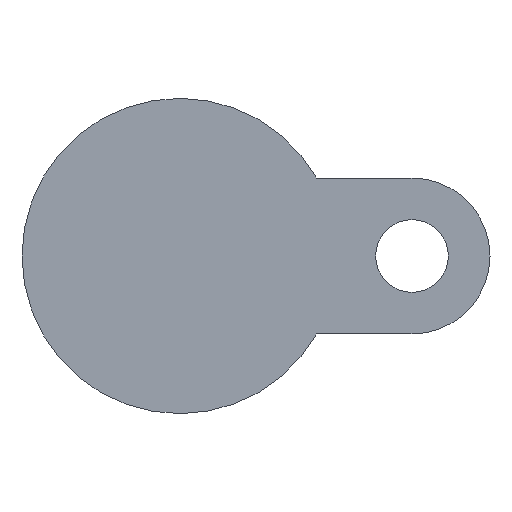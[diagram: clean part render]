
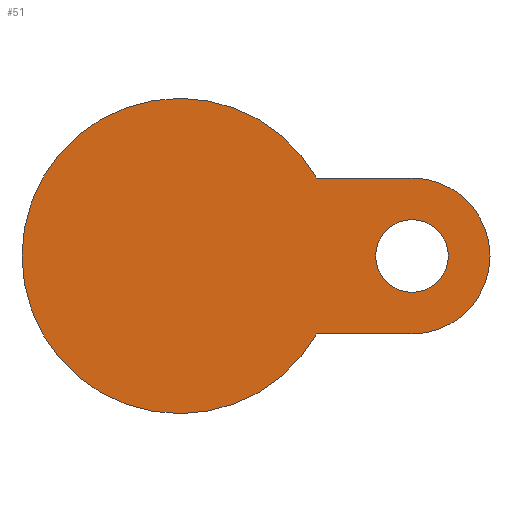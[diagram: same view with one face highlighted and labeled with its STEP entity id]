
A CAD part, front view. The second image highlights one B-rep face of the part: STEP entity #51.
In plain terms, the highlighted planar face has unit normal (0, -1, 0).
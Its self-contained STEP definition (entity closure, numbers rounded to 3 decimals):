
#14 = VECTOR ( 'NONE', #3472, 1000. ) ;
#51 = ADVANCED_FACE ( 'NONE', ( #4893, #2371 ), #2771, .T. ) ;
#52 = CARTESIAN_POINT ( 'NONE',  ( 20.593, -17., 18.8 ) ) ;
#177 = CIRCLE ( 'NONE', #5267, 8.75 ) ;
#208 = AXIS2_PLACEMENT_3D ( 'NONE', #4074, #247, #3662 ) ;
#247 = DIRECTION ( 'NONE',  ( 0., -1., 0. ) ) ;
#368 = DIRECTION ( 'NONE',  ( 1., 0., 0. ) ) ;
#417 = DIRECTION ( 'NONE',  ( 0., 1., 0. ) ) ;
#431 = VERTEX_POINT ( 'NONE', #3631 ) ;
#446 = AXIS2_PLACEMENT_3D ( 'NONE', #2496, #815, #368 ) ;
#483 = ORIENTED_EDGE ( 'NONE', *, *, #3450, .T. ) ;
#638 = CIRCLE ( 'NONE', #3329, 8.75 ) ;
#815 = DIRECTION ( 'NONE',  ( 0., -1., 0. ) ) ;
#974 = CARTESIAN_POINT ( 'NONE',  ( 56., -17., 0. ) ) ;
#1212 = ORIENTED_EDGE ( 'NONE', *, *, #2274, .F. ) ;
#1238 = CIRCLE ( 'NONE', #5349, 18.8 ) ;
#1301 = LINE ( 'NONE', #52, #14 ) ;
#1304 = VERTEX_POINT ( 'NONE', #1713 ) ;
#1305 = CARTESIAN_POINT ( 'NONE',  ( 56., -17., -18.8 ) ) ;
#1332 = CIRCLE ( 'NONE', #446, 18.8 ) ;
#1559 = ORIENTED_EDGE ( 'NONE', *, *, #3420, .F. ) ;
#1620 = DIRECTION ( 'NONE',  ( 0., -1., 0. ) ) ;
#1713 = CARTESIAN_POINT ( 'NONE',  ( 64.75, -17., 0. ) ) ;
#1752 = CARTESIAN_POINT ( 'NONE',  ( 56., -17., 18.8 ) ) ;
#1843 = DIRECTION ( 'NONE',  ( 0., -1., 0. ) ) ;
#2005 = EDGE_CURVE ( 'NONE', #4690, #431, #1301, .T. ) ;
#2074 = VERTEX_POINT ( 'NONE', #4813 ) ;
#2077 = EDGE_CURVE ( 'NONE', #2310, #1304, #638, .T. ) ;
#2119 = DIRECTION ( 'NONE',  ( -1., 0., 0. ) ) ;
#2148 = DIRECTION ( 'NONE',  ( 1., 0., 0. ) ) ;
#2274 = EDGE_CURVE ( 'NONE', #2074, #3320, #2516, .T. ) ;
#2307 = ORIENTED_EDGE ( 'NONE', *, *, #3323, .T. ) ;
#2310 = VERTEX_POINT ( 'NONE', #4107 ) ;
#2352 = CARTESIAN_POINT ( 'NONE',  ( 0., -17., 0. ) ) ;
#2371 = FACE_BOUND ( 'NONE', #3638, .T. ) ;
#2496 = CARTESIAN_POINT ( 'NONE',  ( 56., -17., 0. ) ) ;
#2516 = CIRCLE ( 'NONE', #5019, 38. ) ;
#2674 = CARTESIAN_POINT ( 'NONE',  ( 74.8, -17., 0. ) ) ;
#2696 = DIRECTION ( 'NONE',  ( 1., 0., 0. ) ) ;
#2771 = PLANE ( 'NONE',  #208 ) ;
#2783 = CARTESIAN_POINT ( 'NONE',  ( 56., -17., -18.8 ) ) ;
#2853 = EDGE_LOOP ( 'NONE', ( #1212, #483, #3346, #2307, #3270, #1559 ) ) ;
#2949 = CIRCLE ( 'NONE', #4820, 38. ) ;
#3027 = DIRECTION ( 'NONE',  ( 1., 0., 0. ) ) ;
#3270 = ORIENTED_EDGE ( 'NONE', *, *, #2005, .T. ) ;
#3320 = VERTEX_POINT ( 'NONE', #5096 ) ;
#3323 = EDGE_CURVE ( 'NONE', #4031, #4690, #1238, .T. ) ;
#3329 = AXIS2_PLACEMENT_3D ( 'NONE', #3979, #3540, #2696 ) ;
#3346 = ORIENTED_EDGE ( 'NONE', *, *, #3687, .T. ) ;
#3393 = CARTESIAN_POINT ( 'NONE',  ( 0., -17., 0. ) ) ;
#3420 = EDGE_CURVE ( 'NONE', #3320, #431, #2949, .T. ) ;
#3450 = EDGE_CURVE ( 'NONE', #2074, #5063, #4271, .T. ) ;
#3451 = EDGE_CURVE ( 'NONE', #1304, #2310, #177, .T. ) ;
#3472 = DIRECTION ( 'NONE',  ( -1., 0., 0. ) ) ;
#3540 = DIRECTION ( 'NONE',  ( 0., -1., 0. ) ) ;
#3631 = CARTESIAN_POINT ( 'NONE',  ( 33.024, -17., 18.8 ) ) ;
#3638 = EDGE_LOOP ( 'NONE', ( #3642, #4977 ) ) ;
#3642 = ORIENTED_EDGE ( 'NONE', *, *, #3451, .F. ) ;
#3662 = DIRECTION ( 'NONE',  ( 1., 0., 0. ) ) ;
#3687 = EDGE_CURVE ( 'NONE', #5063, #4031, #1332, .T. ) ;
#3747 = VECTOR ( 'NONE', #2148, 1000. ) ;
#3979 = CARTESIAN_POINT ( 'NONE',  ( 56., -17., 0. ) ) ;
#4002 = DIRECTION ( 'NONE',  ( -1., 0., 0. ) ) ;
#4031 = VERTEX_POINT ( 'NONE', #2674 ) ;
#4074 = CARTESIAN_POINT ( 'NONE',  ( 0., -17., 0. ) ) ;
#4107 = CARTESIAN_POINT ( 'NONE',  ( 47.25, -17., 0. ) ) ;
#4271 = LINE ( 'NONE', #1305, #3747 ) ;
#4612 = CARTESIAN_POINT ( 'NONE',  ( 56., -17., 0. ) ) ;
#4690 = VERTEX_POINT ( 'NONE', #1752 ) ;
#4813 = CARTESIAN_POINT ( 'NONE',  ( 33.024, -17., -18.8 ) ) ;
#4820 = AXIS2_PLACEMENT_3D ( 'NONE', #3393, #417, #2119 ) ;
#4893 = FACE_OUTER_BOUND ( 'NONE', #2853, .T. ) ;
#4923 = DIRECTION ( 'NONE',  ( 0., 1., 0. ) ) ;
#4977 = ORIENTED_EDGE ( 'NONE', *, *, #2077, .F. ) ;
#5019 = AXIS2_PLACEMENT_3D ( 'NONE', #2352, #4923, #4002 ) ;
#5063 = VERTEX_POINT ( 'NONE', #2783 ) ;
#5068 = DIRECTION ( 'NONE',  ( 1., 0., 0. ) ) ;
#5096 = CARTESIAN_POINT ( 'NONE',  ( -38., -17., 0. ) ) ;
#5267 = AXIS2_PLACEMENT_3D ( 'NONE', #974, #1843, #3027 ) ;
#5349 = AXIS2_PLACEMENT_3D ( 'NONE', #4612, #1620, #5068 ) ;
